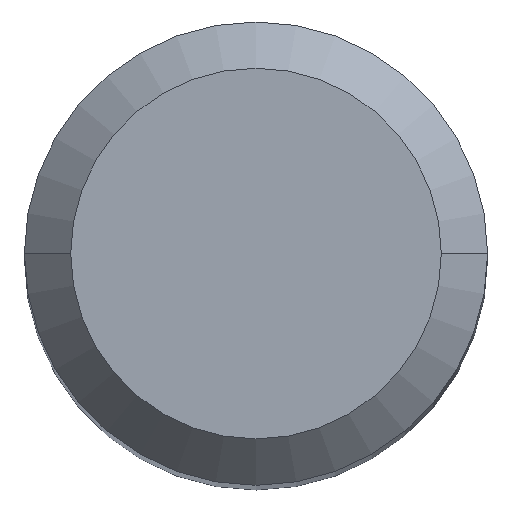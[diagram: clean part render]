
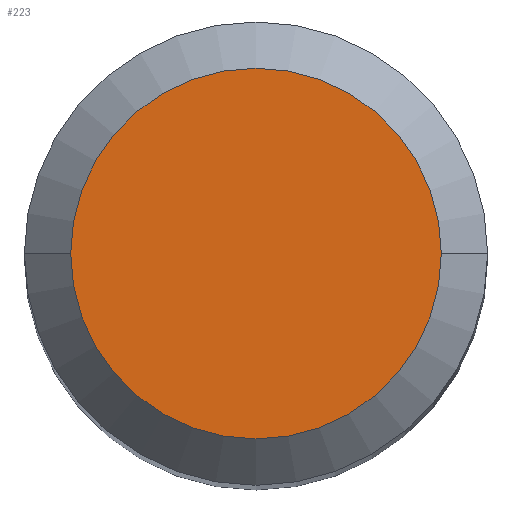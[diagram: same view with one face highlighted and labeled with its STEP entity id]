
A CAD part, top view. The second image highlights one B-rep face of the part: STEP entity #223.
In plain terms, the highlighted planar face has unit normal (0, 0, 1).
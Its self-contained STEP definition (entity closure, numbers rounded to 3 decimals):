
#16 = DIRECTION ( 'NONE',  ( 0., 0., 1. ) ) ;
#47 = CIRCLE ( 'NONE', #165, 2.4 ) ;
#54 = ORIENTED_EDGE ( 'NONE', *, *, #174, .F. ) ;
#65 = DIRECTION ( 'NONE',  ( 0., 0., -1. ) ) ;
#67 = EDGE_LOOP ( 'NONE', ( #54, #491 ) ) ;
#99 = VERTEX_POINT ( 'NONE', #378 ) ;
#101 = VERTEX_POINT ( 'NONE', #325 ) ;
#165 = AXIS2_PLACEMENT_3D ( 'NONE', #449, #65, #408 ) ;
#174 = EDGE_CURVE ( 'NONE', #99, #101, #251, .T. ) ;
#181 = CARTESIAN_POINT ( 'NONE',  ( 0., 2.4, 0. ) ) ;
#216 = DIRECTION ( 'NONE',  ( -1., 0., 0. ) ) ;
#223 = ADVANCED_FACE ( 'NONE', ( #362 ), #452, .T. ) ;
#251 = CIRCLE ( 'NONE', #307, 2.4 ) ;
#275 = DIRECTION ( 'NONE',  ( 0., 0., -1. ) ) ;
#282 = EDGE_CURVE ( 'NONE', #101, #99, #47, .T. ) ;
#307 = AXIS2_PLACEMENT_3D ( 'NONE', #411, #275, #216 ) ;
#325 = CARTESIAN_POINT ( 'NONE',  ( 2.4, 0., 0. ) ) ;
#362 = FACE_OUTER_BOUND ( 'NONE', #67, .T. ) ;
#378 = CARTESIAN_POINT ( 'NONE',  ( -2.4, 0., 0. ) ) ;
#408 = DIRECTION ( 'NONE',  ( -1., 0., 0. ) ) ;
#411 = CARTESIAN_POINT ( 'NONE',  ( 0., 0., 0. ) ) ;
#441 = DIRECTION ( 'NONE',  ( 1., 0., 0. ) ) ;
#449 = CARTESIAN_POINT ( 'NONE',  ( 0., 0., 0. ) ) ;
#452 = PLANE ( 'NONE',  #463 ) ;
#463 = AXIS2_PLACEMENT_3D ( 'NONE', #181, #16, #441 ) ;
#491 = ORIENTED_EDGE ( 'NONE', *, *, #282, .F. ) ;
